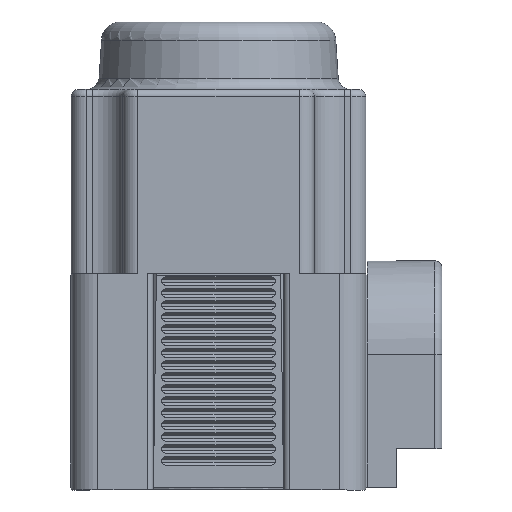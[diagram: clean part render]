
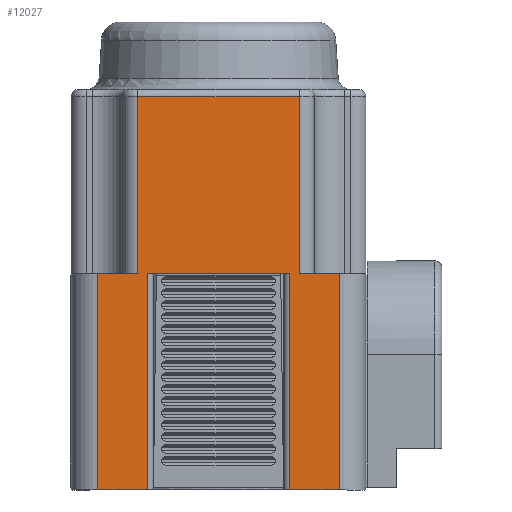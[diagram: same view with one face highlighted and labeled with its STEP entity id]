
A CAD part, left-side view. The second image highlights one B-rep face of the part: STEP entity #12027.
In plain terms, the highlighted planar face has unit normal (-1, 0, 0).
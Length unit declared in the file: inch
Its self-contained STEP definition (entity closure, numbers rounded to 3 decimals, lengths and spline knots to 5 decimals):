
#476=PLANE('',#13389);
#1860=FACE_OUTER_BOUND('',#2584,.T.);
#2584=EDGE_LOOP('',(#10346,#10347,#10348,#10349,#10350,#10351,#10352,#10353,
#10354,#10355,#10356,#10357));
#3359=LINE('',#23128,#4120);
#3372=LINE('',#23198,#4133);
#3495=LINE('',#24786,#4256);
#3513=LINE('',#24846,#4274);
#3514=LINE('',#24850,#4275);
#3517=LINE('',#24869,#4278);
#3530=LINE('',#24938,#4291);
#3531=LINE('',#24942,#4292);
#3532=LINE('',#24943,#4293);
#3533=LINE('',#24945,#4294);
#3534=LINE('',#24947,#4295);
#3535=LINE('',#24948,#4296);
#4120=VECTOR('',#16227,0.3937);
#4133=VECTOR('',#16310,0.3937);
#4256=VECTOR('',#16631,0.3937);
#4274=VECTOR('',#16703,0.3937);
#4275=VECTOR('',#16708,0.3937);
#4278=VECTOR('',#16729,0.3937);
#4291=VECTOR('',#16820,0.3937);
#4292=VECTOR('',#16825,0.3937);
#4293=VECTOR('',#16826,0.3937);
#4294=VECTOR('',#16827,0.3937);
#4295=VECTOR('',#16828,0.3937);
#4296=VECTOR('',#16829,0.3937);
#5197=VERTEX_POINT('',#23120);
#5199=VERTEX_POINT('',#23126);
#5221=VERTEX_POINT('',#23196);
#5357=VERTEX_POINT('',#24783);
#5358=VERTEX_POINT('',#24785);
#5373=VERTEX_POINT('',#24845);
#5374=VERTEX_POINT('',#24849);
#5381=VERTEX_POINT('',#24867);
#5398=VERTEX_POINT('',#24937);
#5399=VERTEX_POINT('',#24941);
#5400=VERTEX_POINT('',#24944);
#5401=VERTEX_POINT('',#24946);
#6749=EDGE_CURVE('',#5199,#5197,#3359,.T.);
#6785=EDGE_CURVE('',#5221,#5199,#3372,.T.);
#6994=EDGE_CURVE('',#5358,#5357,#3495,.T.);
#7024=EDGE_CURVE('',#5373,#5197,#3513,.T.);
#7026=EDGE_CURVE('',#5374,#5373,#3514,.T.);
#7036=EDGE_CURVE('',#5221,#5381,#3517,.T.);
#7070=EDGE_CURVE('',#5398,#5358,#3530,.T.);
#7072=EDGE_CURVE('',#5399,#5381,#3531,.T.);
#7073=EDGE_CURVE('',#5398,#5399,#3532,.T.);
#7074=EDGE_CURVE('',#5400,#5357,#3533,.T.);
#7075=EDGE_CURVE('',#5400,#5401,#3534,.T.);
#7076=EDGE_CURVE('',#5401,#5374,#3535,.T.);
#10346=ORIENTED_EDGE('',*,*,#6749,.F.);
#10347=ORIENTED_EDGE('',*,*,#6785,.F.);
#10348=ORIENTED_EDGE('',*,*,#7036,.T.);
#10349=ORIENTED_EDGE('',*,*,#7072,.F.);
#10350=ORIENTED_EDGE('',*,*,#7073,.F.);
#10351=ORIENTED_EDGE('',*,*,#7070,.T.);
#10352=ORIENTED_EDGE('',*,*,#6994,.T.);
#10353=ORIENTED_EDGE('',*,*,#7074,.F.);
#10354=ORIENTED_EDGE('',*,*,#7075,.T.);
#10355=ORIENTED_EDGE('',*,*,#7076,.T.);
#10356=ORIENTED_EDGE('',*,*,#7026,.T.);
#10357=ORIENTED_EDGE('',*,*,#7024,.T.);
#12027=ADVANCED_FACE('',(#1860),#476,.T.);
#13389=AXIS2_PLACEMENT_3D('',#24940,#16823,#16824);
#16227=DIRECTION('',(0.,-1.,0.));
#16310=DIRECTION('',(0.,0.,1.));
#16631=DIRECTION('',(0.,-1.,0.));
#16703=DIRECTION('',(0.,0.,1.));
#16708=DIRECTION('',(0.,1.,0.));
#16729=DIRECTION('',(0.,1.,0.));
#16820=DIRECTION('',(0.,0.,1.));
#16823=DIRECTION('center_axis',(-1.,0.,0.));
#16824=DIRECTION('ref_axis',(0.,0.,1.));
#16825=DIRECTION('',(0.,0.,1.));
#16826=DIRECTION('',(0.,1.,0.));
#16827=DIRECTION('',(0.,0.,1.));
#16828=DIRECTION('',(0.,-1.,0.));
#16829=DIRECTION('',(0.,0.,1.));
#23120=CARTESIAN_POINT('',(-0.51638,-0.51554,0.65855));
#23126=CARTESIAN_POINT('',(-0.51638,0.15246,0.65855));
#23128=CARTESIAN_POINT('',(-0.51638,0.15246,0.65855));
#23196=CARTESIAN_POINT('',(-0.51638,0.15246,-0.07345));
#23198=CARTESIAN_POINT('',(-0.51638,0.15246,-0.07345));
#24783=CARTESIAN_POINT('',(-0.51638,-0.47554,-0.07345));
#24785=CARTESIAN_POINT('',(-0.51638,0.11246,-0.07345));
#24786=CARTESIAN_POINT('',(-0.51638,0.11246,-0.07345));
#24845=CARTESIAN_POINT('',(-0.51638,-0.51554,-0.07345));
#24846=CARTESIAN_POINT('',(-0.51638,-0.51554,-0.07345));
#24849=CARTESIAN_POINT('',(-0.51638,-0.68054,-0.07345));
#24850=CARTESIAN_POINT('',(-0.51638,-0.68054,-0.07345));
#24867=CARTESIAN_POINT('',(-0.51638,0.31746,-0.07345));
#24869=CARTESIAN_POINT('',(-0.51638,0.15246,-0.07345));
#24937=CARTESIAN_POINT('',(-0.51638,0.11246,-0.96745));
#24938=CARTESIAN_POINT('',(-0.51638,0.11246,-0.96745));
#24940=CARTESIAN_POINT('Origin',(-0.51638,-0.68093,
-0.15445));
#24941=CARTESIAN_POINT('',(-0.51638,0.31746,-0.96745));
#24942=CARTESIAN_POINT('',(-0.51638,0.31746,-0.96745));
#24943=CARTESIAN_POINT('',(-0.51638,0.11246,-0.96745));
#24944=CARTESIAN_POINT('',(-0.51638,-0.47554,-0.96745));
#24945=CARTESIAN_POINT('',(-0.51638,-0.47554,-0.96745));
#24946=CARTESIAN_POINT('',(-0.51638,-0.68054,-0.96745));
#24947=CARTESIAN_POINT('',(-0.51638,-0.47554,-0.96745));
#24948=CARTESIAN_POINT('',(-0.51638,-0.68054,-0.96745));
